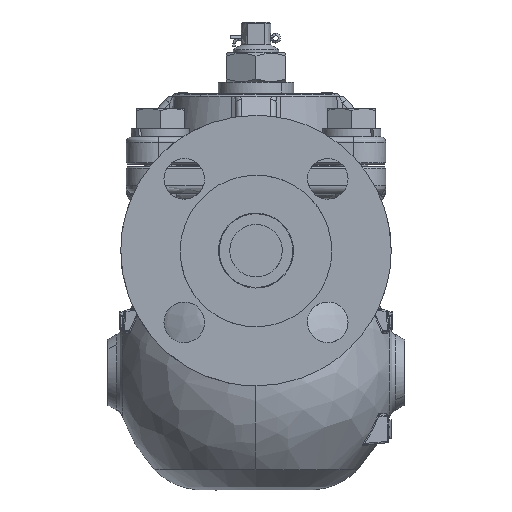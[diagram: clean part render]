
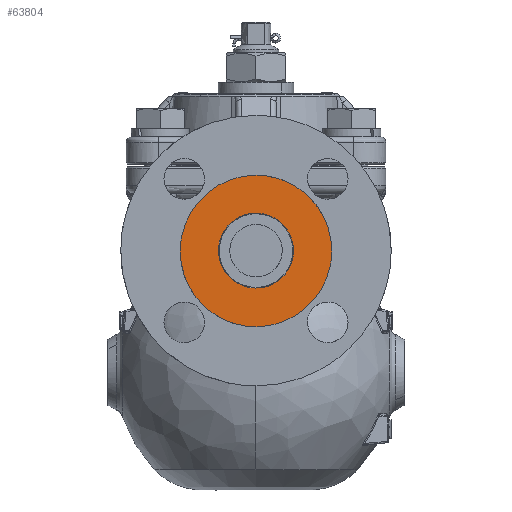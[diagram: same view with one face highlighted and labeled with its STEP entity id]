
A CAD part, left-side view. The second image highlights one B-rep face of the part: STEP entity #63804.
In plain terms, the highlighted free-form (B-spline) face has degree [1, 1] with [2, 2] control points.
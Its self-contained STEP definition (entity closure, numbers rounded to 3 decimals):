
#62351=CARTESIAN_POINT('',(-1.,-28.,-1.64));
#62352=VERTEX_POINT('',#62351);
#62353=CARTESIAN_POINT('',(-1.,-20.644,17.276));
#62354=VERTEX_POINT('',#62353);
#62355=CARTESIAN_POINT('',(-1.,-28.,-1.64));
#62356=CARTESIAN_POINT('',(-1.,-28.,3.612));
#62357=CARTESIAN_POINT('',(-1.,-26.096,8.508));
#62358=CARTESIAN_POINT('',(-1.,-24.192,13.403));
#62359=CARTESIAN_POINT('',(-1.,-20.644,17.276));
#62367=(BOUNDED_CURVE()B_SPLINE_CURVE(2,(#62355,#62356,#62357,#62358,#62359),.UNSPECIFIED.,.F.,.U.)B_SPLINE_CURVE_WITH_KNOTS((3,2,3),(0.,0.5,1.),.UNSPECIFIED.)CURVE()GEOMETRIC_REPRESENTATION_ITEM()RATIONAL_B_SPLINE_CURVE((1.,0.983,1.,0.983,1.))REPRESENTATION_ITEM(''));
#62368=EDGE_CURVE('',#62352,#62354,#62367,.T.);
#62370=CARTESIAN_POINT('',(-1.,0.,-29.64));
#62371=VERTEX_POINT('',#62370);
#62372=CARTESIAN_POINT('',(-1.,0.,-29.64));
#62373=CARTESIAN_POINT('',(-1.,-11.598,-29.64));
#62374=CARTESIAN_POINT('',(-1.,-19.799,-21.439));
#62375=CARTESIAN_POINT('',(-1.,-28.,-13.238));
#62376=CARTESIAN_POINT('',(-1.,-28.,-1.64));
#62384=(BOUNDED_CURVE()B_SPLINE_CURVE(2,(#62372,#62373,#62374,#62375,#62376),.UNSPECIFIED.,.F.,.U.)B_SPLINE_CURVE_WITH_KNOTS((3,2,3),(0.,0.5,1.),.UNSPECIFIED.)CURVE()GEOMETRIC_REPRESENTATION_ITEM()RATIONAL_B_SPLINE_CURVE((1.,0.924,1.,0.924,1.))REPRESENTATION_ITEM(''));
#62385=EDGE_CURVE('',#62371,#62352,#62384,.T.);
#62387=CARTESIAN_POINT('',(-1.,20.644,-20.557));
#62388=VERTEX_POINT('',#62387);
#62389=CARTESIAN_POINT('',(-1.,20.644,-20.557));
#62390=CARTESIAN_POINT('',(-1.,19.174,-22.162));
#62391=CARTESIAN_POINT('',(-1.,15.489,-25.345));
#62392=CARTESIAN_POINT('',(-1.,8.462,-28.768));
#62393=CARTESIAN_POINT('',(-1.,2.902,-29.642));
#62394=CARTESIAN_POINT('',(-1.,0.,-29.64));
#62395=B_SPLINE_CURVE_WITH_KNOTS('',3,(#62389,#62390,#62391,#62392,#62393,#62394),.UNSPECIFIED.,.F.,.U.,(4,1,1,4),(0.,6.529,14.508,23.213),.UNSPECIFIED.);
#62396=EDGE_CURVE('',#62388,#62371,#62395,.T.);
#62470=CARTESIAN_POINT('',(-1.,0.,26.36));
#62471=VERTEX_POINT('',#62470);
#62472=CARTESIAN_POINT('',(-1.,-20.644,17.276));
#62473=CARTESIAN_POINT('',(-1.,-19.174,18.881));
#62474=CARTESIAN_POINT('',(-1.,-15.765,21.824));
#62475=CARTESIAN_POINT('',(-1.,-8.824,25.376));
#62476=CARTESIAN_POINT('',(-1.,-3.265,26.362));
#62477=CARTESIAN_POINT('',(-1.,0.,26.36));
#62478=B_SPLINE_CURVE_WITH_KNOTS('',3,(#62472,#62473,#62474,#62475,#62476,#62477),.UNSPECIFIED.,.F.,.U.,(4,1,1,4),(0.,6.529,13.42,23.213),.UNSPECIFIED.);
#62479=EDGE_CURVE('',#62354,#62471,#62478,.T.);
#62520=CARTESIAN_POINT('',(-1.,28.,-1.64));
#62521=VERTEX_POINT('',#62520);
#62522=CARTESIAN_POINT('',(-1.,28.,-1.64));
#62523=CARTESIAN_POINT('',(-1.,28.,-6.893));
#62524=CARTESIAN_POINT('',(-1.,26.096,-11.789));
#62525=CARTESIAN_POINT('',(-1.,24.192,-16.684));
#62526=CARTESIAN_POINT('',(-1.,20.644,-20.557));
#62534=(BOUNDED_CURVE()B_SPLINE_CURVE(2,(#62522,#62523,#62524,#62525,#62526),.UNSPECIFIED.,.F.,.U.)B_SPLINE_CURVE_WITH_KNOTS((3,2,3),(0.,0.5,1.),.UNSPECIFIED.)CURVE()GEOMETRIC_REPRESENTATION_ITEM()RATIONAL_B_SPLINE_CURVE((1.,0.983,1.,0.983,1.))REPRESENTATION_ITEM(''));
#62535=EDGE_CURVE('',#62521,#62388,#62534,.T.);
#62537=CARTESIAN_POINT('',(-1.,0.,26.36));
#62538=CARTESIAN_POINT('',(-1.,11.598,26.36));
#62539=CARTESIAN_POINT('',(-1.,19.799,18.159));
#62540=CARTESIAN_POINT('',(-1.,28.,9.958));
#62541=CARTESIAN_POINT('',(-1.,28.,-1.64));
#62549=(BOUNDED_CURVE()B_SPLINE_CURVE(2,(#62537,#62538,#62539,#62540,#62541),.UNSPECIFIED.,.F.,.U.)B_SPLINE_CURVE_WITH_KNOTS((3,2,3),(0.,0.5,1.),.UNSPECIFIED.)CURVE()GEOMETRIC_REPRESENTATION_ITEM()RATIONAL_B_SPLINE_CURVE((1.,0.924,1.,0.924,1.))REPRESENTATION_ITEM(''));
#62550=EDGE_CURVE('',#62471,#62521,#62549,.T.);
#63398=CARTESIAN_POINT('',(-1.,-9.534,-11.54));
#63399=VERTEX_POINT('',#63398);
#63400=CARTESIAN_POINT('',(-1.,-13.85,-1.494));
#63401=VERTEX_POINT('',#63400);
#63402=CARTESIAN_POINT('',(-1.,-9.534,-11.54));
#63403=CARTESIAN_POINT('',(-1.,-10.809,-10.332));
#63404=CARTESIAN_POINT('',(-1.,-12.472,-8.005));
#63405=CARTESIAN_POINT('',(-1.,-13.647,-4.421));
#63406=CARTESIAN_POINT('',(-1.,-13.85,-2.431));
#63407=CARTESIAN_POINT('',(-1.,-13.85,-1.494));
#63408=B_SPLINE_CURVE_WITH_KNOTS('',3,(#63402,#63403,#63404,#63405,#63406,#63407),.UNSPECIFIED.,.F.,.U.,(4,1,1,4),(0.,5.269,8.431,11.241),.UNSPECIFIED.);
#63409=EDGE_CURVE('',#63399,#63401,#63408,.T.);
#63411=CARTESIAN_POINT('',(-1.,0.,12.356));
#63412=VERTEX_POINT('',#63411);
#63413=CARTESIAN_POINT('',(-1.,-13.85,-1.494));
#63414=CARTESIAN_POINT('',(-1.,-13.85,4.243));
#63415=CARTESIAN_POINT('',(-1.,-9.793,8.299));
#63416=CARTESIAN_POINT('',(-1.,-5.737,12.356));
#63417=CARTESIAN_POINT('',(-1.,0.,12.356));
#63425=(BOUNDED_CURVE()B_SPLINE_CURVE(2,(#63413,#63414,#63415,#63416,#63417),.UNSPECIFIED.,.F.,.U.)B_SPLINE_CURVE_WITH_KNOTS((3,2,3),(0.,0.5,1.),.UNSPECIFIED.)CURVE()GEOMETRIC_REPRESENTATION_ITEM()RATIONAL_B_SPLINE_CURVE((1.,0.924,1.,0.924,1.))REPRESENTATION_ITEM(''));
#63426=EDGE_CURVE('',#63401,#63412,#63425,.T.);
#63428=CARTESIAN_POINT('',(-1.,9.534,8.552));
#63429=VERTEX_POINT('',#63428);
#63430=CARTESIAN_POINT('',(-1.,0.,12.356));
#63431=CARTESIAN_POINT('',(-1.,2.661,12.356));
#63432=CARTESIAN_POINT('',(-1.,5.132,11.37));
#63433=CARTESIAN_POINT('',(-1.,7.604,10.384));
#63434=CARTESIAN_POINT('',(-1.,9.534,8.552));
#63442=(BOUNDED_CURVE()B_SPLINE_CURVE(2,(#63430,#63431,#63432,#63433,#63434),.UNSPECIFIED.,.F.,.U.)B_SPLINE_CURVE_WITH_KNOTS((3,2,3),(0.,0.5,1.),.UNSPECIFIED.)CURVE()GEOMETRIC_REPRESENTATION_ITEM()RATIONAL_B_SPLINE_CURVE((1.,0.982,1.,0.982,1.))REPRESENTATION_ITEM(''));
#63443=EDGE_CURVE('',#63412,#63429,#63442,.T.);
#63513=CARTESIAN_POINT('',(-1.,0.,-15.344));
#63514=VERTEX_POINT('',#63513);
#63515=CARTESIAN_POINT('',(-1.,0.,-15.344));
#63516=CARTESIAN_POINT('',(-1.,-0.986,-15.344));
#63517=CARTESIAN_POINT('',(-1.,-3.286,-15.098));
#63518=CARTESIAN_POINT('',(-1.,-6.605,-13.864));
#63519=CARTESIAN_POINT('',(-1.,-8.66,-12.37));
#63520=CARTESIAN_POINT('',(-1.,-9.534,-11.54));
#63521=B_SPLINE_CURVE_WITH_KNOTS('',3,(#63515,#63516,#63517,#63518,#63519,#63520),.UNSPECIFIED.,.F.,.U.,(4,1,1,4),(0.,2.957,6.901,10.515),.UNSPECIFIED.);
#63522=EDGE_CURVE('',#63514,#63399,#63521,.T.);
#63560=CARTESIAN_POINT('',(-1.,13.85,-1.494));
#63561=VERTEX_POINT('',#63560);
#63562=CARTESIAN_POINT('',(-1.,9.534,8.552));
#63563=CARTESIAN_POINT('',(-1.,10.213,7.908));
#63564=CARTESIAN_POINT('',(-1.,11.671,6.212));
#63565=CARTESIAN_POINT('',(-1.,13.382,2.838));
#63566=CARTESIAN_POINT('',(-1.,13.851,0.028));
#63567=CARTESIAN_POINT('',(-1.,13.85,-1.494));
#63568=B_SPLINE_CURVE_WITH_KNOTS('',3,(#63562,#63563,#63564,#63565,#63566,#63567),.UNSPECIFIED.,.F.,.U.,(4,1,1,4),(0.,2.81,6.674,11.241),.UNSPECIFIED.);
#63569=EDGE_CURVE('',#63429,#63561,#63568,.T.);
#63571=CARTESIAN_POINT('',(-1.,13.85,-1.494));
#63572=CARTESIAN_POINT('',(-1.,13.85,-7.231));
#63573=CARTESIAN_POINT('',(-1.,9.793,-11.287));
#63574=CARTESIAN_POINT('',(-1.,5.737,-15.344));
#63575=CARTESIAN_POINT('',(-1.,0.,-15.344));
#63583=(BOUNDED_CURVE()B_SPLINE_CURVE(2,(#63571,#63572,#63573,#63574,#63575),.UNSPECIFIED.,.F.,.U.)B_SPLINE_CURVE_WITH_KNOTS((3,2,3),(0.,0.5,1.),.UNSPECIFIED.)CURVE()GEOMETRIC_REPRESENTATION_ITEM()RATIONAL_B_SPLINE_CURVE((1.,0.924,1.,0.924,1.))REPRESENTATION_ITEM(''));
#63584=EDGE_CURVE('',#63561,#63514,#63583,.T.);
#63783=CARTESIAN_POINT('',(-1.,-30.797,-32.438));
#63784=CARTESIAN_POINT('',(-1.,-30.797,29.157));
#63785=CARTESIAN_POINT('',(-1.,30.797,-32.438));
#63786=CARTESIAN_POINT('',(-1.,30.797,29.157));
#63787=B_SPLINE_SURFACE_WITH_KNOTS('',1,1,((#63783,#63785),(#63784,#63786)),.UNSPECIFIED.,.F.,.F.,.U.,(2,2),(2,2),(0.,61.594),(0.,61.594),.UNSPECIFIED.);
#63788=ORIENTED_EDGE('',*,*,#62550,.T.);
#63789=ORIENTED_EDGE('',*,*,#62535,.T.);
#63790=ORIENTED_EDGE('',*,*,#62396,.T.);
#63791=ORIENTED_EDGE('',*,*,#62385,.T.);
#63792=ORIENTED_EDGE('',*,*,#62368,.T.);
#63793=ORIENTED_EDGE('',*,*,#62479,.T.);
#63794=EDGE_LOOP('',(#63788,#63789,#63790,#63791,#63792,#63793));
#63795=FACE_OUTER_BOUND('',#63794,.T.);
#63796=ORIENTED_EDGE('',*,*,#63584,.F.);
#63797=ORIENTED_EDGE('',*,*,#63569,.F.);
#63798=ORIENTED_EDGE('',*,*,#63443,.F.);
#63799=ORIENTED_EDGE('',*,*,#63426,.F.);
#63800=ORIENTED_EDGE('',*,*,#63409,.F.);
#63801=ORIENTED_EDGE('',*,*,#63522,.F.);
#63802=EDGE_LOOP('',(#63796,#63797,#63798,#63799,#63800,#63801));
#63803=FACE_BOUND('',#63802,.T.);
#63804=ADVANCED_FACE('',(#63795,#63803),#63787,.T.);
